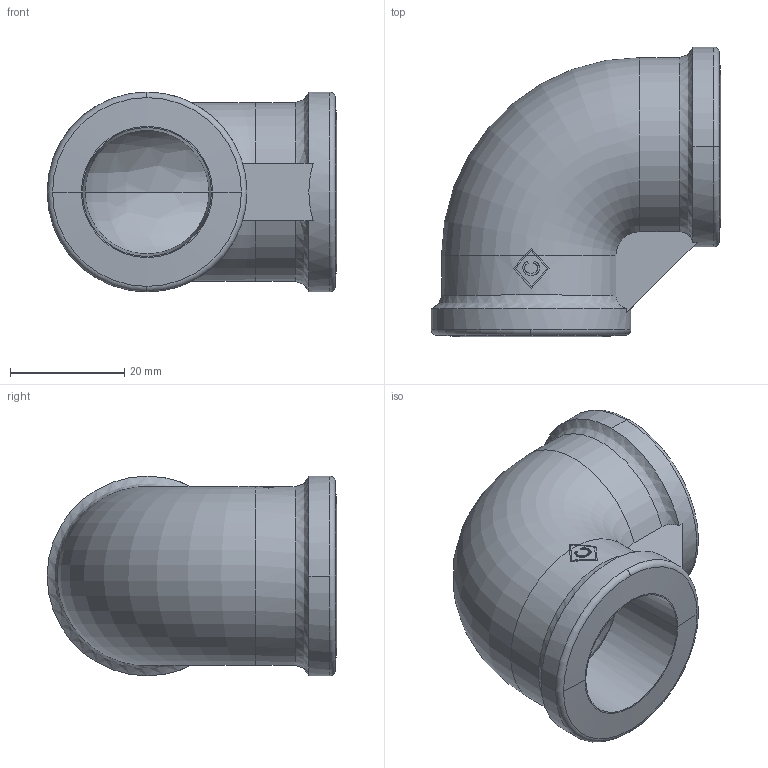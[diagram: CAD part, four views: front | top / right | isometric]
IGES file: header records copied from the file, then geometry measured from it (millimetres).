
Global section: file name: No Iges File Name specified; native system: AutoDesk Inventor R12.0; preprocessor: AutoDesk Inventor Iges Exporter R12.0; date: 20090918.114205; units: millimetre
Bounding box: 50.79 x 50.79 x 35 mm (x, y, z)
Volume: 21164.6 mm3; surface area: 11726.8 mm2
Topology: 1 solids, 1 shells, 53 faces, 163 edges, 113 vertices
Faces by surface type: plane 15, bspline 12, cylinder 9, torus 7, revolution 6, cone 4
